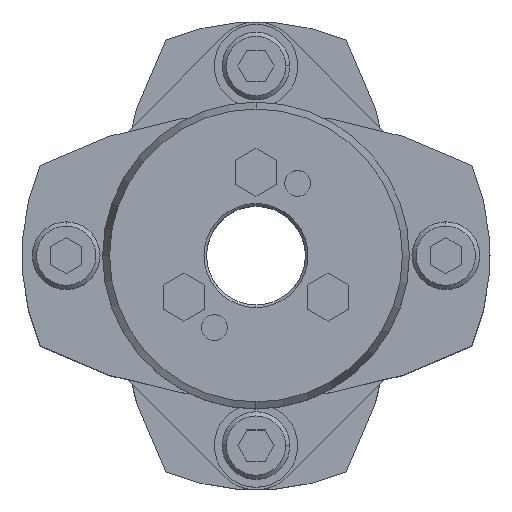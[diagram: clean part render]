
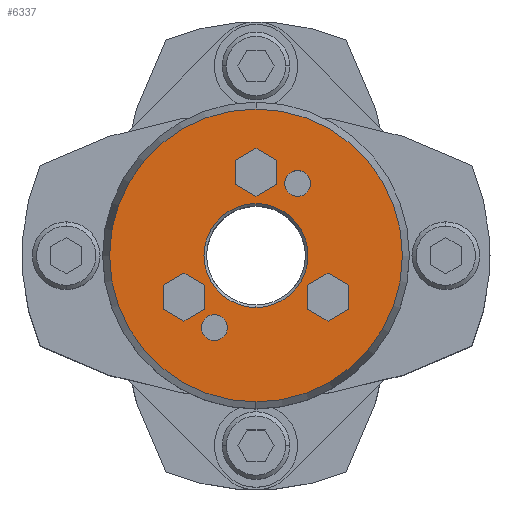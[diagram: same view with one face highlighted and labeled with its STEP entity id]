
A CAD part, top view. The second image highlights one B-rep face of the part: STEP entity #6337.
In plain terms, the highlighted planar face has unit normal (0, 0, 1).
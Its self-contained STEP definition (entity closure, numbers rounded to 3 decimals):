
#1677=CARTESIAN_POINT('',(0.,10.,52.0));
#1678=VERTEX_POINT('',#1677);
#1694=CARTESIAN_POINT('',(0.,-10.,52.0));
#1695=VERTEX_POINT('',#1694);
#1702=CARTESIAN_POINT('',(0.,0.,52.0));
#1703=DIRECTION('',(0.0,0.0,1.0));
#1704=DIRECTION('',(0.0,1.0,0.0));
#1705=AXIS2_PLACEMENT_3D('',#1702,#1703,#1704);
#1706=CIRCLE('',#1705,10.0);
#1707=EDGE_CURVE('',#1695,#1678,#1706,.T.);
#1865=CARTESIAN_POINT('',(0.,-28.16,52.0));
#1866=VERTEX_POINT('',#1865);
#1873=CARTESIAN_POINT('',(0.,28.16,52.0));
#1874=VERTEX_POINT('',#1873);
#1875=CARTESIAN_POINT('',(0.,0.,52.0));
#1876=DIRECTION('',(0.0,0.0,-1.0));
#1877=DIRECTION('',(0.0,-1.0,0.0));
#1878=AXIS2_PLACEMENT_3D('',#1875,#1876,#1877);
#1879=CIRCLE('',#1878,28.16);
#1880=EDGE_CURVE('',#1866,#1874,#1879,.T.);
#2123=CARTESIAN_POINT('',(8.,16.356,52.0));
#2124=VERTEX_POINT('',#2123);
#2140=CARTESIAN_POINT('',(8.,11.356,52.0));
#2141=VERTEX_POINT('',#2140);
#2148=CARTESIAN_POINT('',(8.,13.856,52.0));
#2149=DIRECTION('',(0.0,0.0,-1.0));
#2150=DIRECTION('',(0.0,1.0,0.0));
#2151=AXIS2_PLACEMENT_3D('',#2148,#2149,#2150);
#2152=CIRCLE('',#2151,2.5);
#2153=EDGE_CURVE('',#2124,#2141,#2152,.T.);
#2165=CARTESIAN_POINT('',(-8.,-11.356,52.0));
#2166=VERTEX_POINT('',#2165);
#2182=CARTESIAN_POINT('',(-8.,-16.356,52.0));
#2183=VERTEX_POINT('',#2182);
#2190=CARTESIAN_POINT('',(-8.,-13.856,52.0));
#2191=DIRECTION('',(0.0,0.0,-1.0));
#2192=DIRECTION('',(0.0,1.0,0.0));
#2193=AXIS2_PLACEMENT_3D('',#2190,#2191,#2192);
#2194=CIRCLE('',#2193,2.5);
#2195=EDGE_CURVE('',#2166,#2183,#2194,.T.);
#4853=CARTESIAN_POINT('',(13.856,-3.381,52.0));
#4854=VERTEX_POINT('',#4853);
#4861=CARTESIAN_POINT('',(9.856,-5.691,52.0));
#4862=VERTEX_POINT('',#4861);
#4863=CARTESIAN_POINT('',(9.856,-5.691,52.0));
#4864=DIRECTION('',(0.866,0.5,0.0));
#4865=VECTOR('',#4864,4.619);
#4866=LINE('',#4863,#4865);
#4867=EDGE_CURVE('',#4862,#4854,#4866,.T.);
#4891=CARTESIAN_POINT('',(17.856,-5.691,52.0));
#4892=VERTEX_POINT('',#4891);
#4899=CARTESIAN_POINT('',(13.856,-3.381,52.0));
#4900=DIRECTION('',(0.866,-0.5,0.0));
#4901=VECTOR('',#4900,4.619);
#4902=LINE('',#4899,#4901);
#4903=EDGE_CURVE('',#4854,#4892,#4902,.T.);
#4922=CARTESIAN_POINT('',(17.856,-10.309,52.0));
#4923=VERTEX_POINT('',#4922);
#4930=CARTESIAN_POINT('',(17.856,-5.691,52.0));
#4931=DIRECTION('',(0.0,-1.0,0.0));
#4932=VECTOR('',#4931,4.619);
#4933=LINE('',#4930,#4932);
#4934=EDGE_CURVE('',#4892,#4923,#4933,.T.);
#4953=CARTESIAN_POINT('',(13.856,-12.619,52.0));
#4954=VERTEX_POINT('',#4953);
#4961=CARTESIAN_POINT('',(17.856,-10.309,52.0));
#4962=DIRECTION('',(-0.866,-0.5,0.0));
#4963=VECTOR('',#4962,4.619);
#4964=LINE('',#4961,#4963);
#4965=EDGE_CURVE('',#4923,#4954,#4964,.T.);
#4984=CARTESIAN_POINT('',(9.856,-10.309,52.0));
#4985=VERTEX_POINT('',#4984);
#4992=CARTESIAN_POINT('',(13.856,-12.619,52.0));
#4993=DIRECTION('',(-0.866,0.5,0.0));
#4994=VECTOR('',#4993,4.619);
#4995=LINE('',#4992,#4994);
#4996=EDGE_CURVE('',#4954,#4985,#4995,.T.);
#5014=CARTESIAN_POINT('',(9.856,-10.309,52.0));
#5015=DIRECTION('',(0.0,1.0,0.0));
#5016=VECTOR('',#5015,4.619);
#5017=LINE('',#5014,#5016);
#5018=EDGE_CURVE('',#4985,#4862,#5017,.T.);
#5053=CARTESIAN_POINT('',(0.,20.619,52.0));
#5054=VERTEX_POINT('',#5053);
#5061=CARTESIAN_POINT('',(-4.,18.309,52.0));
#5062=VERTEX_POINT('',#5061);
#5063=CARTESIAN_POINT('',(-4.,18.309,52.0));
#5064=DIRECTION('',(0.866,0.5,0.0));
#5065=VECTOR('',#5064,4.619);
#5066=LINE('',#5063,#5065);
#5067=EDGE_CURVE('',#5062,#5054,#5066,.T.);
#5091=CARTESIAN_POINT('',(4.,18.309,52.0));
#5092=VERTEX_POINT('',#5091);
#5099=CARTESIAN_POINT('',(0.,20.619,52.0));
#5100=DIRECTION('',(0.866,-0.5,0.0));
#5101=VECTOR('',#5100,4.619);
#5102=LINE('',#5099,#5101);
#5103=EDGE_CURVE('',#5054,#5092,#5102,.T.);
#5122=CARTESIAN_POINT('',(4.,13.691,52.0));
#5123=VERTEX_POINT('',#5122);
#5130=CARTESIAN_POINT('',(4.,18.309,52.0));
#5131=DIRECTION('',(0.0,-1.0,0.0));
#5132=VECTOR('',#5131,4.619);
#5133=LINE('',#5130,#5132);
#5134=EDGE_CURVE('',#5092,#5123,#5133,.T.);
#5153=CARTESIAN_POINT('',(0.,11.381,52.0));
#5154=VERTEX_POINT('',#5153);
#5161=CARTESIAN_POINT('',(4.,13.691,52.0));
#5162=DIRECTION('',(-0.866,-0.5,0.0));
#5163=VECTOR('',#5162,4.619);
#5164=LINE('',#5161,#5163);
#5165=EDGE_CURVE('',#5123,#5154,#5164,.T.);
#5184=CARTESIAN_POINT('',(-4.,13.691,52.0));
#5185=VERTEX_POINT('',#5184);
#5192=CARTESIAN_POINT('',(0.,11.381,52.0));
#5193=DIRECTION('',(-0.866,0.5,0.0));
#5194=VECTOR('',#5193,4.619);
#5195=LINE('',#5192,#5194);
#5196=EDGE_CURVE('',#5154,#5185,#5195,.T.);
#5214=CARTESIAN_POINT('',(-4.,13.691,52.0));
#5215=DIRECTION('',(0.0,1.0,0.0));
#5216=VECTOR('',#5215,4.619);
#5217=LINE('',#5214,#5216);
#5218=EDGE_CURVE('',#5185,#5062,#5217,.T.);
#5253=CARTESIAN_POINT('',(-13.856,-3.381,52.0));
#5254=VERTEX_POINT('',#5253);
#5261=CARTESIAN_POINT('',(-17.856,-5.691,52.0));
#5262=VERTEX_POINT('',#5261);
#5263=CARTESIAN_POINT('',(-17.856,-5.691,52.0));
#5264=DIRECTION('',(0.866,0.5,0.0));
#5265=VECTOR('',#5264,4.619);
#5266=LINE('',#5263,#5265);
#5267=EDGE_CURVE('',#5262,#5254,#5266,.T.);
#5291=CARTESIAN_POINT('',(-9.856,-5.691,52.0));
#5292=VERTEX_POINT('',#5291);
#5299=CARTESIAN_POINT('',(-13.856,-3.381,52.0));
#5300=DIRECTION('',(0.866,-0.5,0.0));
#5301=VECTOR('',#5300,4.619);
#5302=LINE('',#5299,#5301);
#5303=EDGE_CURVE('',#5254,#5292,#5302,.T.);
#5322=CARTESIAN_POINT('',(-9.856,-10.309,52.0));
#5323=VERTEX_POINT('',#5322);
#5330=CARTESIAN_POINT('',(-9.856,-5.691,52.0));
#5331=DIRECTION('',(0.0,-1.0,0.0));
#5332=VECTOR('',#5331,4.619);
#5333=LINE('',#5330,#5332);
#5334=EDGE_CURVE('',#5292,#5323,#5333,.T.);
#5353=CARTESIAN_POINT('',(-13.856,-12.619,52.0));
#5354=VERTEX_POINT('',#5353);
#5361=CARTESIAN_POINT('',(-9.856,-10.309,52.0));
#5362=DIRECTION('',(-0.866,-0.5,0.0));
#5363=VECTOR('',#5362,4.619);
#5364=LINE('',#5361,#5363);
#5365=EDGE_CURVE('',#5323,#5354,#5364,.T.);
#5384=CARTESIAN_POINT('',(-17.856,-10.309,52.0));
#5385=VERTEX_POINT('',#5384);
#5392=CARTESIAN_POINT('',(-13.856,-12.619,52.0));
#5393=DIRECTION('',(-0.866,0.5,0.0));
#5394=VECTOR('',#5393,4.619);
#5395=LINE('',#5392,#5394);
#5396=EDGE_CURVE('',#5354,#5385,#5395,.T.);
#5414=CARTESIAN_POINT('',(-17.856,-10.309,52.0));
#5415=DIRECTION('',(0.0,1.0,0.0));
#5416=VECTOR('',#5415,4.619);
#5417=LINE('',#5414,#5416);
#5418=EDGE_CURVE('',#5385,#5262,#5417,.T.);
#5444=CARTESIAN_POINT('',(-8.,-13.856,52.0));
#5445=DIRECTION('',(0.0,0.0,-1.0));
#5446=DIRECTION('',(0.0,1.0,0.0));
#5447=AXIS2_PLACEMENT_3D('',#5444,#5445,#5446);
#5448=CIRCLE('',#5447,2.5);
#5449=EDGE_CURVE('',#2183,#2166,#5448,.T.);
#5478=CARTESIAN_POINT('',(8.,13.856,52.0));
#5479=DIRECTION('',(0.0,0.0,-1.0));
#5480=DIRECTION('',(0.0,1.0,0.0));
#5481=AXIS2_PLACEMENT_3D('',#5478,#5479,#5480);
#5482=CIRCLE('',#5481,2.5);
#5483=EDGE_CURVE('',#2141,#2124,#5482,.T.);
#6276=CARTESIAN_POINT('',(0.,0.,52.0));
#6277=DIRECTION('',(0.0,0.0,-1.0));
#6278=DIRECTION('',(0.0,-1.0,0.0));
#6279=AXIS2_PLACEMENT_3D('',#6276,#6277,#6278);
#6280=CIRCLE('',#6279,28.16);
#6281=EDGE_CURVE('',#1874,#1866,#6280,.T.);
#6286=CARTESIAN_POINT('',(0.,2.682,52.0));
#6287=DIRECTION('',(0.0,0.0,1.0));
#6288=DIRECTION('',(0.0,1.0,0.0));
#6289=AXIS2_PLACEMENT_3D('',#6286,#6287,#6288);
#6290=PLANE('',#6289);
#6291=ORIENTED_EDGE('',*,*,#6281,.F.);
#6292=ORIENTED_EDGE('',*,*,#1880,.F.);
#6293=EDGE_LOOP('',(#6291,#6292));
#6294=FACE_OUTER_BOUND('',#6293,.T.);
#6295=ORIENTED_EDGE('',*,*,#4867,.T.);
#6296=ORIENTED_EDGE('',*,*,#4903,.T.);
#6297=ORIENTED_EDGE('',*,*,#4934,.T.);
#6298=ORIENTED_EDGE('',*,*,#4965,.T.);
#6299=ORIENTED_EDGE('',*,*,#4996,.T.);
#6300=ORIENTED_EDGE('',*,*,#5018,.T.);
#6301=EDGE_LOOP('',(#6295,#6296,#6297,#6298,#6299,#6300));
#6302=FACE_BOUND('',#6301,.T.);
#6303=ORIENTED_EDGE('',*,*,#5067,.T.);
#6304=ORIENTED_EDGE('',*,*,#5103,.T.);
#6305=ORIENTED_EDGE('',*,*,#5134,.T.);
#6306=ORIENTED_EDGE('',*,*,#5165,.T.);
#6307=ORIENTED_EDGE('',*,*,#5196,.T.);
#6308=ORIENTED_EDGE('',*,*,#5218,.T.);
#6309=EDGE_LOOP('',(#6303,#6304,#6305,#6306,#6307,#6308));
#6310=FACE_BOUND('',#6309,.T.);
#6311=ORIENTED_EDGE('',*,*,#5267,.T.);
#6312=ORIENTED_EDGE('',*,*,#5303,.T.);
#6313=ORIENTED_EDGE('',*,*,#5334,.T.);
#6314=ORIENTED_EDGE('',*,*,#5365,.T.);
#6315=ORIENTED_EDGE('',*,*,#5396,.T.);
#6316=ORIENTED_EDGE('',*,*,#5418,.T.);
#6317=EDGE_LOOP('',(#6311,#6312,#6313,#6314,#6315,#6316));
#6318=FACE_BOUND('',#6317,.T.);
#6319=ORIENTED_EDGE('',*,*,#2195,.T.);
#6320=ORIENTED_EDGE('',*,*,#5449,.T.);
#6321=EDGE_LOOP('',(#6319,#6320));
#6322=FACE_BOUND('',#6321,.T.);
#6323=ORIENTED_EDGE('',*,*,#2153,.T.);
#6324=ORIENTED_EDGE('',*,*,#5483,.T.);
#6325=EDGE_LOOP('',(#6323,#6324));
#6326=FACE_BOUND('',#6325,.T.);
#6327=ORIENTED_EDGE('',*,*,#1707,.F.);
#6328=CARTESIAN_POINT('',(0.,0.,52.0));
#6329=DIRECTION('',(0.0,0.0,1.0));
#6330=DIRECTION('',(0.0,1.0,0.0));
#6331=AXIS2_PLACEMENT_3D('',#6328,#6329,#6330);
#6332=CIRCLE('',#6331,10.0);
#6333=EDGE_CURVE('',#1678,#1695,#6332,.T.);
#6334=ORIENTED_EDGE('',*,*,#6333,.F.);
#6335=EDGE_LOOP('',(#6327,#6334));
#6336=FACE_BOUND('',#6335,.T.);
#6337=ADVANCED_FACE('',(#6294,#6302,#6310,#6318,#6322,#6326,#6336),#6290,.T.);
